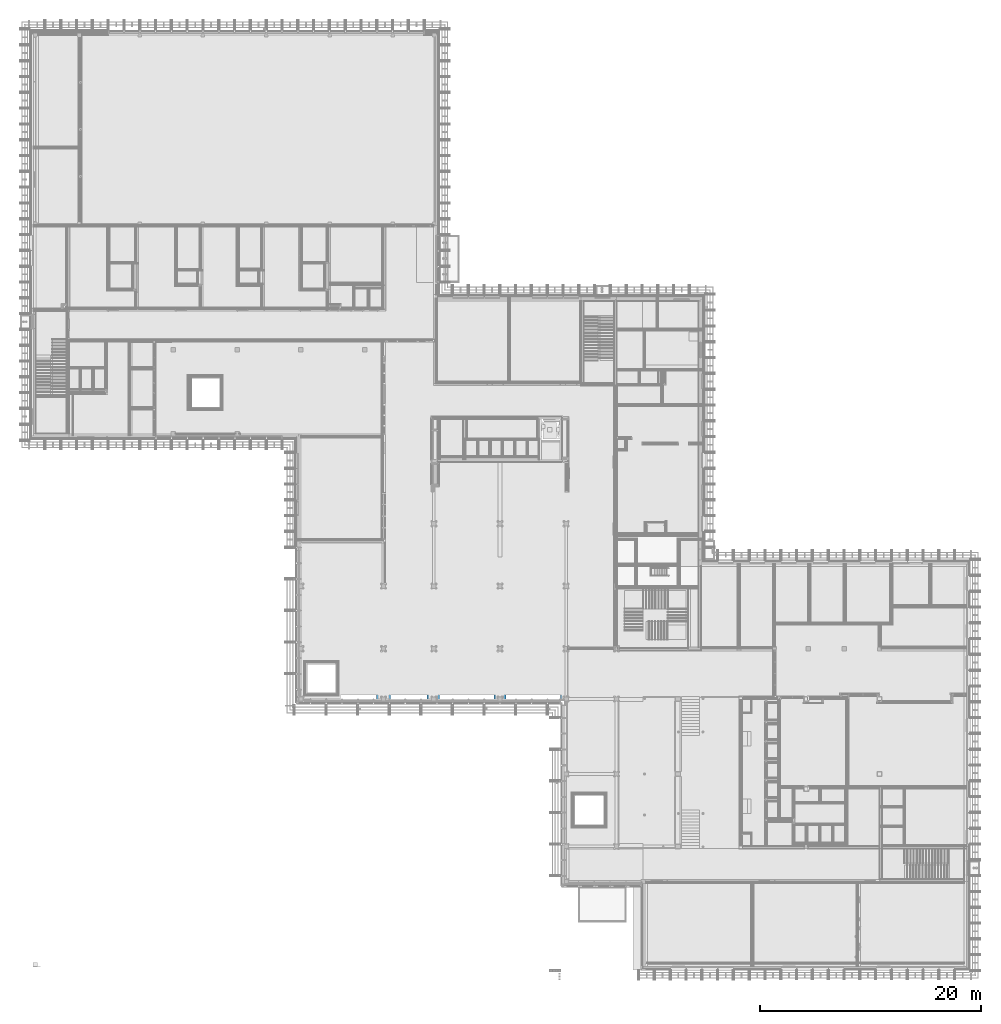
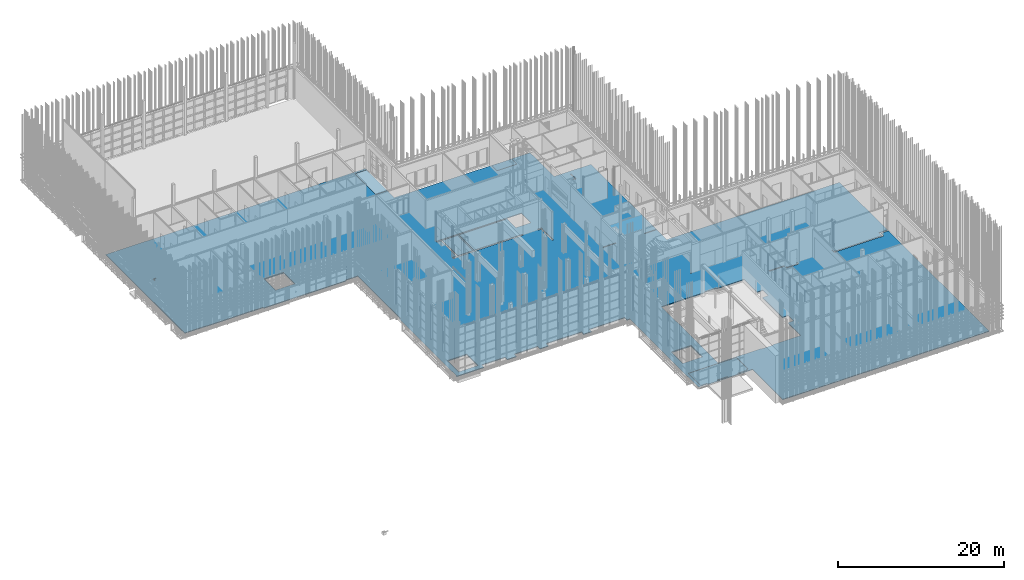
# One storey, part 163 of 260: 1 building element part, 1 element without a shape of its own.
"""IFC2X3 building model written with IfcOpenShell, lengths in millimetres."""

from ifc_helpers import new_model, entity, si_unit, converted_unit, derived_unit, money_unit, direction, frame, origin_with_axes, place, context, subcontext, project, spatial, faceted_brep, material, type_object, element, aggregate, save


model = new_model("IFC2X3")

# Units and contexts
model_context = context("Model", 3, precision=0.01, world=origin_with_axes(), true_north=direction((0.0, 1.0)))
body_context = subcontext(model_context, "Body", "Model", "MODEL_VIEW")
ifc_project = project(units=[si_unit("LENGTHUNIT", "METRE", prefix="MILLI"), si_unit("AREAUNIT", "SQUARE_METRE"), si_unit("VOLUMEUNIT", "CUBIC_METRE"), converted_unit("PLANEANGLEUNIT", "DEGREE", entity("IfcPlaneAngleMeasure", 0.0174532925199), si_unit("PLANEANGLEUNIT", "RADIAN"), dimensions=[0, 0, 0, 0, 0, 0, 0]), money_unit("EUR"), converted_unit("TIMEUNIT", "Year", entity("IfcTimeMeasure", 31556926.0), si_unit("TIMEUNIT", "SECOND"), dimensions=[0, 0, 1, 0, 0, 0, 0]), si_unit("MASSUNIT", "GRAM", prefix="KILO"), si_unit("THERMODYNAMICTEMPERATUREUNIT", "DEGREE_CELSIUS"), si_unit("LUMINOUSINTENSITYUNIT", "LUMEN"), si_unit("ENERGYUNIT", "JOULE", prefix="MEGA"), derived_unit("THERMALCONDUCTANCEUNIT", [(si_unit("POWERUNIT", "WATT"), 1), (si_unit("LENGTHUNIT", "METRE"), -1), (si_unit("THERMODYNAMICTEMPERATUREUNIT", "KELVIN"), -1)]), derived_unit("SPECIFICHEATCAPACITYUNIT", [(si_unit("ENERGYUNIT", "JOULE"), 1), (si_unit("MASSUNIT", "GRAM", prefix="KILO"), -1), (si_unit("THERMODYNAMICTEMPERATUREUNIT", "KELVIN"), -1)]), derived_unit("MASSDENSITYUNIT", [(si_unit("MASSUNIT", "GRAM", prefix="KILO"), 1), (si_unit("VOLUMEUNIT", "CUBIC_METRE"), -1)])], contexts=[model_context])

# Site, building, storey
site_placement = place(None, origin_with_axes())
site = spatial("IfcSite", under=ifc_project, at=site_placement, Name="Kolde pst 67a", CompositionType="ELEMENT")
building_placement = place(site_placement, origin_with_axes())
building = spatial("IfcBuilding", under=site, at=building_placement, Name="Riigigümnaasium", CompositionType="ELEMENT")
storey_placement = place(building_placement, origin_with_axes())
storey = spatial("IfcBuildingStorey", under=building, at=storey_placement, Name="1. korrus", CompositionType="ELEMENT", Elevation=0.0)

# Slab, building element part
slab_type = type_object("IfcSlabType", Name="PP-RBM-10/1_EPS 200 500", PredefinedType="NOTDEFINED")
slab_placement = place(storey_placement, frame((266.322784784, 67249.9971514, 0.0), z_axis=(0.0, 0.0, 1.0), x_axis=(1.0, 0.0, 0.0)))
slab = element("IfcSlab", 1, at=slab_placement, inside=storey, type_object=slab_type, Name="Põrand pinnasel", PredefinedType="NOTDEFINED")
ifc_material = material(Name="_PEALEVALUKIHT - raudbetoonplaat vastavalt EK osale, vajadusel põrandküte")
building_element_part_placement = place(slab_placement, origin_with_axes())
building_element_part = element("IfcBuildingElementPart", 2, at=building_element_part_placement, material=ifc_material, Name="_PEALEVALUKIHT - raudbetoonplaat vastavalt EK osale, vajadusel põrandküte", context=body_context, shape_type="Brep", body=[
    faceted_brep([(16624.9441607, -16615.0095232, -60.0), (16624.9441607, -14015.0095232, -60.0), (16624.9441607, -14015.0095232, -100.0), (16624.9441607, -16615.0095232, -100.0), (13938.6777342, -16675.0095232, -60.0), (16658.6777342, -16675.0095232, -60.0), (16658.6777342, -13955.0095232, -60.0), (13938.6777342, -13955.0095232, -60.0), (14024.9441607, -14015.0095232, -60.0), (14024.9441607, -16615.0095232, -60.0), (14024.9441607, -14015.0095232, -100.0), (23973.6799494, -42999.980095, -100.0), (23973.6799494, -29299.5005252, -100.0), (23999.9463759, -29299.500562, -100.0), (23999.9463759, -19050.0166275, -100.0), (22288.5650026, -19050.0163206, -100.0), (22288.5650026, -19210.0163206, -100.0), (10868.5385943, -19210.0163206, -100.0), (10868.5385943, -19050.0164764, -100.0), (2999.88406448, -19050.0165838, -100.0), (2999.88406628, -19009.9992035, -100.0), (0.0, -19010.7371507, -100.0), (0.0, 0.0, -100.0), (36039.9429015, 0.0, -100.0), (36039.9416319, -6809.99696703, -100.0), (35973.6764556, -6809.99696703, -100.0), (35973.6764556, -7009.99696703, -100.0), (54850.6592908, -7009.99696703, -100.0), (54850.6592908, -7059.99696513, -100.0), (54876.9257173, -7059.99696513, -100.0), (54876.9257173, -12779.9970931, -100.0), (59999.9377357, -12779.9970931, -100.0), (59999.9377357, -28530.0163166, -100.0), (58263.6260919, -28530.0163175, -100.0), (58263.6260919, -28630.0163175, -100.0), (59999.9377357, -28630.0163187, -100.0), (59999.9377357, -31009.9974516, -100.0), (83973.6765431, -31009.9974516, -100.0), (83973.6765431, -42534.9971792, -100.0), (82763.6792783, -42534.9971792, -100.0), (82763.6792783, -42564.9971792, -100.0), (82768.6792783, -42564.9971792, -100.0), (82768.6792783, -42579.9971792, -100.0), (82783.6792783, -42579.9971792, -100.0), (82783.6792783, -42594.9971792, -100.0), (82808.6792783, -42594.9971792, -100.0), (82808.6792783, -42694.9971792, -100.0), (82808.6792783, -43249.8990371, -100.0), (76313.6792783, -43249.8990371, -100.0), (76313.6792783, -43204.8990393, -100.0), (76113.6792783, -43204.8990393, -100.0), (76113.6792783, -42809.9971787, -100.0), (76268.6798861, -42809.9971787, -100.0), (76268.6798861, -42594.9971792, -100.0), (76278.6798861, -42594.9971792, -100.0), (76278.6798861, -42579.9971792, -100.0), (76293.6798861, -42579.9971792, -100.0), (76293.6798861, -42564.9971792, -100.0), (76313.6798861, -42564.9971792, -100.0), (76313.6798861, -42534.9971792, -100.0), (72749.2149042, -42534.9971792, -100.0), (72749.2148941, -42554.9971792, -100.0), (72749.2147712, -42799.9969998, -100.0), (72909.2147712, -42799.9970801, -100.0), (72909.2148239, -42694.9971792, -100.0), (73493.6767943, -42694.9971792, -100.0), (73493.6767453, -43009.9970854, -100.0), (73513.6767453, -43009.9970885, -100.0), (73513.6767905, -42754.9971792, -100.0), (76113.6798861, -42754.9971792, -100.0), (76113.6792783, -42809.9971787, -100.0), (76093.6792783, -42809.9971787, -100.0), (76093.6792783, -43384.8990371, -100.0), (76093.6792783, -43404.8990371, -100.0), (82943.6792783, -43404.8990371, -100.0), (82963.6792783, -43404.8990371, -100.0), (82963.6792783, -42754.9971792, -100.0), (83973.6765431, -42754.9971792, -100.0), (83973.6765431, -67009.9971514, -100.0), (55329.9241436, -67009.9971514, -100.0), (55329.9251795, -59729.9852703, -100.0), (49105.2284207, -59729.9962674, -100.0), (49105.2303604, -59560.0076119, -100.0), (47983.4761046, -59559.9948118, -100.0), (47983.6626713, -43209.9991185, -100.0), (47799.9291214, -43209.9971514, -100.0), (47436.9477703, -43209.9971514, -100.0), (47436.9477703, -42649.7267552, -100.0), (42530.9379731, -42649.7267552, -100.0), (42530.9379731, -43209.9971514, -100.0), (41436.9477703, -43209.9971514, -100.0), (41436.9477703, -42649.7267552, -100.0), (36532.9379731, -42649.7267552, -100.0), (36532.9379731, -43209.7267557, -100.0), (35366.9477703, -43209.7267557, -100.0), (35366.9477703, -42649.7267552, -100.0), (32102.9415226, -42649.7267552, -100.0), (32102.9415226, -43209.7267557, -100.0), (30816.9513198, -43209.7267557, -100.0), (30816.9513198, -42649.7267552, -100.0), (27557.7759921, -42649.7267552, -100.0), (27557.7759921, -43209.7267572, -100.0), (23799.9457899, -43209.7267572, -100.0), (23799.9460972, -42999.9781126, -100.0), (67384.5647071, -42834.9971787, -100.0), (67384.5647071, -42934.9971787, -100.0), (69483.6765035, -42934.9971787, -100.0), (69483.6765035, -42834.9971787, -100.0), (71093.6765035, -43389.8971581, -100.0), (71193.6765035, -43389.8971581, -100.0), (71193.6765035, -43014.7452063, -100.0), (71093.6765035, -43014.7452063, -100.0), (71093.6765035, -43289.8971581, -100.0), (69608.6765035, -43289.8971581, -100.0), (69608.6765035, -43209.9971787, -100.0), (69508.6765035, -43209.9971787, -100.0), (69508.6765035, -43289.8971581, -100.0), (69508.6765035, -43389.8971581, -100.0), (56563.6713262, -14533.7381503, -100.0), (56841.1713262, -14533.7381503, -100.0), (56941.1713262, -14533.7381503, -100.0), (56941.1713262, -13331.4970931, -100.0), (56841.1713262, -13331.4970931, -100.0), (56841.1713262, -14433.7381503, -100.0), (56563.6713262, -14433.7381503, -100.0), (52563.6713374, -28536.1294346, -100.0), (52563.6713374, -28636.1294346, -100.0), (54397.3960326, -28636.1294337, -100.0), (54397.3960326, -28536.1294355, -100.0), (58908.7339847, -38629.9974954, -100.0), (59013.7339847, -38629.9974954, -100.0), (59013.7339847, -38555.9974954, -100.0), (58908.7339847, -38555.9974954, -100.0), (52466.6713373, -33099.9971785, -100.0), (52466.6713373, -33019.9971785, -100.0), (52446.6713373, -33019.9971785, -100.0), (52446.6713373, -33099.9971785, -100.0), (52343.6713358, -33099.9971785, -100.0), (52343.6713358, -32599.9971785, -100.0), (52323.6713358, -32599.9971785, -100.0), (52323.6713358, -33119.9971785, -100.0), (52343.6713358, -33119.9971785, -100.0), (52466.6713373, -33119.9971785, -100.0), (47634.9291054, -19779.9971915, -100.0), (47634.9291054, -17479.9971915, -100.0), (45534.9291024, -17479.9971915, -100.0), (45534.9291024, -19779.9971915, -100.0), (47958.6626813, -24264.9971915, -100.0), (48158.6626813, -24264.9971915, -100.0), (48158.6626813, -21594.9971915, -100.0), (47958.6626813, -21594.9971915, -100.0), (48173.6626813, -21579.9971911, -100.0), (48173.6626813, -21379.997192, -100.0), (47608.6626759, -21379.9971915, -100.0), (47608.6626759, -21579.9971915, -100.0), (51374.9334552, -54375.0161939, -100.0), (51374.9334552, -51775.0161939, -100.0), (48774.9334552, -51775.0161939, -100.0), (48774.9334552, -54375.0161939, -100.0), (2773.71489861, -7389.99920353, -100.0), (2773.71489861, -7289.99920353, -100.0), (2433.61489861, -7289.99920353, -100.0), (2333.61489861, -7289.99920353, -100.0), (2333.61489861, -7689.99920353, -100.0), (2433.61489861, -7689.99920353, -100.0), (2433.61489861, -7389.99920353, -100.0), (14024.9441607, -16615.0095232, -100.0), (35773.6764452, -21579.9971911, -100.0), (36338.6764452, -21579.9971915, -100.0), (45508.6626759, -21579.9971915, -100.0), (45508.6626759, -21379.9971915, -100.0), (36538.6764452, -21379.9971915, -100.0), (36538.6764452, -18569.9968148, -100.0), (36538.6764448, -17479.9971915, -100.0), (36338.6764457, -17479.9971915, -100.0), (36338.6764452, -18569.9968148, -100.0), (36338.6764452, -21379.9971915, -100.0), (35773.6764452, -21379.997192, -100.0), (27150.0004112, -39859.9971514, -100.0), (24550.0004112, -39859.9971514, -100.0), (24550.0004112, -42459.9971514, -100.0), (27150.0004112, -42459.9971514, -100.0), (58403.6261108, -56470.0352098, -100.0), (58403.6261108, -56560.0372612, -100.0), (60043.6261108, -56560.0372612, -100.0), (60043.6261108, -56470.0352098, -100.0), (63889.4805108, -56470.0352098, -100.0), (63889.4805108, -53380.0354382, -100.0), (64699.9316408, -53380.0110601, -100.0), (64699.8925374, -52080.0108444, -100.0), (63889.4805108, -52080.0352212, -100.0), (63889.4796994, -47279.9474523, -100.0), (64699.838281, -47279.923078, -100.0), (64699.7991789, -45979.9659208, -100.0), (63889.4795044, -45979.9902948, -100.0), (63889.4805108, -42900.0006175, -100.0), (60043.6261108, -42900.0006175, -100.0), (60043.6261108, -42799.727851, -100.0), (58403.6261108, -42799.727851, -100.0), (58403.6261108, -42900.0006175, -100.0), (52419.9377639, -42900.0006175, -100.0), (52419.9377639, -56470.0352098, -100.0), (13938.6777342, -16675.0095232, 0.0), (16658.6777342, -16675.0095232, 0.0), (16658.6777342, -13955.0095232, 0.0), (13938.6777342, -13955.0095232, 0.0), (23973.6799494, -29299.5005252, -0.100008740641), (23973.6799494, -42999.980095, -0.0999999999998), (23799.9661664, -29299.5002691, 0.0), (23999.9463759, -29299.500562, 0.0), (23799.9661664, -29299.5005252, -0.100008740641), (23999.9463759, -19050.0166275, 0.0), (22288.5650026, -19050.0163206, 0.0), (22288.5650026, -19210.0163206, 0.0), (10868.5385943, -19210.0163206, 0.0), (10868.5385943, -19050.0164764, 0.0), (2999.88406448, -19050.0165838, 0.0), (2999.88406628, -19009.9992035, 0.0), (0.0, -19010.7371507, 0.0), (0.0, 0.0, 0.0), (36039.9429015, 0.0, 0.0), (36039.9429015, -325.005422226, -22.0), (36039.9429015, -5332.11390243, -22.0), (36039.9419075, -5332.11390243, 0.0), (36039.9415946, -7009.99979261, 0.0), (36039.9415946, -7009.99696703, -20.0000021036), (36039.9415169, -6809.99696703, -20.0000021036), (36039.942841, -325.005422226, 0.0), (35973.6764556, -6809.99696703, -20.0000021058), (35973.6764556, -7009.99696703, -20.0000021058), (50576.143585, -7009.99696703, -20.0000016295), (50576.143585, -7009.99696703, -22.0), (51966.5117299, -7009.99696703, -22.0), (51966.5117299, -7009.99696703, -20.0000015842), (54850.6592908, -7009.99696703, -20.0000014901), (54850.6592908, -7059.99696513, -20.0000023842), (54876.9257173, -7059.99696513, -20.000002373), (54876.9257173, -7009.51065423, 0.0), (54876.9257173, -12779.9970931, 0.0), (54876.9257173, -7009.51065423, -20.000000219), (59999.9377357, -12779.9970931, 0.0), (59999.9377357, -28530.0163166, 0.0), (58263.6260919, -28530.0163175, 0.0), (58263.6260919, -28630.0163175, 0.0), (59999.9377357, -28630.0163187, 0.0), (59999.9377357, -31009.9974516, 0.0), (83999.9167207, -31009.9974516, 0.0), (83999.9167207, -31009.9974516, -20.0000011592), (83973.6765431, -31009.9974516, -20.0000011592), (83973.6765431, -42534.9971792, -20.0000012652), (83999.9167207, -42534.9971792, 0.0), (82763.6792783, -42534.9971792, 0.0), (83999.9167207, -42534.9971792, -20.0000012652), (82763.6792783, -42564.9971792, 0.0), (82768.6792783, -42564.9971792, 0.0), (82768.6792783, -42579.9971792, 0.0), (82783.6792783, -42579.9971792, 0.0), (82783.6792783, -42594.9971792, 0.0), (82808.6792783, -42594.9971792, 0.0), (82808.6792783, -42694.9971792, 0.0), (82808.6792783, -43249.8990371, 0.0), (76313.6792783, -43249.8990371, 0.0), (76313.6792783, -43204.8990393, 0.0), (76113.6792783, -43204.8990393, 0.0), (76113.6792783, -42809.9971787, 0.0), (76268.6798861, -42809.9971787, 0.0), (76268.6798861, -42594.9971792, 0.0), (76278.6798861, -42594.9971792, 0.0), (76278.6798861, -42579.9971792, 0.0), (76293.6798861, -42579.9971792, 0.0), (76293.6798861, -42564.9971792, 0.0), (76313.6798861, -42564.9971792, 0.0), (76313.6798861, -42534.9971792, 0.0), (72749.2149042, -42534.9971792, 0.0), (72749.2148941, -42554.9971792, 0.0), (72749.2147712, -42799.9969998, 0.0), (72909.2147712, -42799.9970801, 0.0), (72909.2148239, -42694.9971792, 0.0), (73493.6767943, -42694.9971792, 0.0), (73493.6767453, -43009.9970854, 0.0), (73513.6767453, -43009.9970885, 0.0), (73513.6767905, -42754.9971792, 0.0), (76113.6798861, -42754.9971792, 0.0), (76113.6792783, -42809.9971787, 0.0), (76093.6792783, -42809.9971787, 0.0), (76093.6792783, -43384.8990371, 0.0), (76093.6792783, -43404.8990371, 0.0), (82943.6792783, -43404.8990371, 0.0), (82963.6792783, -43404.8990371, 0.0), (82963.6792783, -42754.9971792, 0.0), (83999.9167207, -42754.9971792, 0.0), (83999.9167207, -42754.9971792, -20.0000012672), (83973.6765431, -42754.9971792, -20.0000012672), (83973.6765431, -67009.9971514, -20.0000014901), (83999.9167207, -67009.9971514, 0.0), (55329.9241436, -67009.9971514, 0.0), (83999.9167207, -67009.9971514, -20.0000014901), (55329.9251795, -59729.9852703, 0.0), (51965.2283205, -59729.9912147, 0.0), (50474.320025, -59729.9938486, 0.0), (50474.320025, -59729.9938486, -22.0), (49105.2284207, -59729.9962674, -22.0), (53335.228342, -59729.9887943, 0.0), (53335.228342, -59729.9887943, -22.0), (51965.2283205, -59729.9912147, -22.0), (49105.2303604, -59560.0076119, -22.0), (47983.4761046, -59559.9948118, -0.0999999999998), (49105.228415, -59560.0076119, -0.0999999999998), (47983.6626713, -43209.9991185, -0.0999999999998), (47799.9291214, -43209.9971514, -0.0999999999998), (47436.9477703, -43209.9971514, 0.0), (47799.9291214, -43209.9971514, 0.0), (47436.9477703, -42649.7267552, 0.0), (42530.9379731, -42649.7267552, 0.0), (42530.9379731, -43209.9971514, 0.0), (41436.9477703, -43209.9971514, 0.0), (41436.9477703, -42649.7267552, 0.0), (36532.9379731, -42649.7267552, 0.0), (36532.9379731, -43209.7267557, 0.0), (35366.9477703, -43209.7267557, 0.0), (35366.9477703, -42649.7267552, 0.0), (32102.9415226, -42649.7267552, 0.0), (32102.9415226, -43209.7267557, 0.0), (30816.9513198, -43209.7267557, 0.0), (30816.9513198, -42649.7267552, 0.0), (27557.7759921, -42649.7267552, 0.0), (27557.7759921, -43209.7267572, 0.0), (23799.9457899, -43209.7267572, 0.0), (23799.9460972, -42999.9781126, -0.0999999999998), (67384.5647071, -42834.9971787, 0.0), (67384.5647071, -42934.9971787, 0.0), (69483.6765035, -42934.9971787, 0.0), (69483.6765035, -42834.9971787, 0.0), (71093.6765035, -43389.8971581, 0.0), (71193.6765035, -43389.8971581, 0.0), (71193.6765035, -43014.7452063, 0.0), (71093.6765035, -43014.7452063, 0.0), (71093.6765035, -43289.8971581, 0.0), (69608.6765035, -43289.8971581, 0.0), (69608.6765035, -43209.9971787, 0.0), (69508.6765035, -43209.9971787, 0.0), (69508.6765035, -43289.8971581, 0.0), (69508.6765035, -43389.8971581, 0.0), (56563.6713262, -14533.7381503, 0.0), (56841.1713262, -14533.7381503, 0.0), (56941.1713262, -14533.7381503, 0.0), (56941.1713262, -13331.4970931, 0.0), (56841.1713262, -13331.4970931, 0.0), (56841.1713262, -14433.7381503, 0.0), (56563.6713262, -14433.7381503, 0.0), (52563.6713374, -28536.1294346, 0.0), (52563.6713374, -28636.1294346, 0.0), (54397.3960326, -28636.1294337, 0.0), (54397.3960326, -28536.1294354, 0.0), (58908.7339847, -38629.9974954, 0.0), (59013.7339847, -38629.9974954, 0.0), (59013.7339847, -38555.9974954, 0.0), (58908.7339847, -38555.9974954, 0.0), (52466.6713373, -33099.9971785, 0.0), (52466.6713373, -33019.9971785, 0.0), (52446.6713373, -33019.9971785, 0.0), (52446.6713373, -33099.9971785, 0.0), (52343.6713358, -33099.9971785, 0.0), (52343.6713358, -32599.9971785, 0.0), (52323.6713358, -32599.9971785, 0.0), (52323.6713358, -33119.9971785, 0.0), (52343.6713358, -33119.9971785, 0.0), (52466.6713373, -33119.9971785, 0.0), (47634.9291054, -19779.9971915, 0.0), (47634.9291054, -17479.9971915, 0.0), (45534.9291024, -17479.9971915, 0.0), (45534.9291024, -19779.9971915, 0.0), (47958.6626813, -24264.9971915, 0.0), (48158.6626813, -24264.9971915, 0.0), (48158.6626813, -21594.9971915, 0.0), (47958.6626813, -21594.9971915, 0.0), (48173.6626813, -21579.9971911, 0.0), (48173.6626813, -21379.997192, 0.0), (47608.6626759, -21379.9971915, 0.0), (47608.6626759, -21579.9971915, 0.0), (51374.9334552, -54375.0161939, -60.0), (51374.9334552, -51775.0161939, -60.0), (48774.9334552, -51775.0161939, -60.0), (48774.9334552, -54375.0161939, -60.0), (2773.71489861, -7389.99920353, 0.0), (2773.71489861, -7289.99920353, 0.0), (2433.61489861, -7289.99920353, 0.0), (2333.61489861, -7289.99920353, 0.0), (2333.61489861, -7689.99920353, 0.0), (2433.61489861, -7689.99920353, 0.0), (2433.61489861, -7389.99920353, 0.0), (35773.6764452, -21579.9971911, 0.0), (45508.6626759, -21579.9971915, 0.0), (45508.6626759, -21379.9971915, 0.0), (38643.5077265, -21379.9971915, -80.0), (38643.5077265, -21379.9971915, 0.0), (36538.6764452, -21379.9971915, 0.0), (38843.5077265, -21379.9971915, 0.0), (38843.5077265, -21379.9971915, -80.0), (36538.6764448, -17679.9971915, 0.0), (36538.6764448, -17679.9971915, -80.0), (36538.6764448, -17479.9971915, -80.0), (35773.6764452, -17479.9971915, 0.0), (35773.6764452, -17479.9971915, -80.0), (36338.6764457, -17479.9971915, -80.0), (45363.6626759, -17479.9971915, -80.0), (45363.6626759, -17479.9971915, 0.0), (36338.6764457, -17679.9971915, -80.0), (36338.6764457, -17679.9971915, 0.0), (36338.6764452, -21379.9971915, 0.0), (35773.6764452, -21379.997192, 0.0), (27150.0004112, -39859.9971514, -60.0), (24550.0004112, -39859.9971514, -60.0), (24550.0004112, -42459.9971514, -60.0), (27150.0004112, -42459.9971514, -60.0), (58403.6261108, -56470.0352098, 0.0), (58403.6261108, -56560.0372612, 0.0), (60043.6261108, -56560.0372612, 0.0), (60043.6261108, -56470.0352098, 0.0), (63889.4805108, -56470.0352098, 0.0), (63889.4805108, -53380.0354382, 0.0), (64699.9316408, -53380.0110601, 0.0), (64699.8925374, -52080.0108444, 0.0), (63889.4805108, -52080.0352212, 0.0), (63889.4796994, -47279.9474523, 0.0), (64699.838281, -47279.923078, 0.0), (64699.7991789, -45979.9659208, 0.0), (63889.4795044, -45979.9902948, 0.0), (63889.4805108, -42900.0006175, 0.0), (60043.6261108, -42900.0006175, 0.0), (60043.6261108, -42799.727851, 0.0), (58403.6261108, -42799.727851, 0.0), (58403.6261108, -42900.0006175, 0.0), (52419.9377639, -42900.0006175, 0.0), (52419.9377639, -56470.0352098, 0.0), (51966.5117299, -7009.58622871, 0.0), (51966.5117299, -7019.99852941, 0.0), (52313.6713374, -7019.99852941, 0.0), (52313.6713374, -8319.99696464, 0.0), (49543.6872707, -8319.99696464, 0.0), (49543.6872707, -7020.00174649, 0.0), (50576.143585, -7020.00174649, 0.0), (50576.143585, -7009.62233228, 0.0), (34402.7365633, -5332.11390243, 0.0), (34402.7365633, -325.005422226, 0.0), (47799.9291214, -59729.9985735, 0.0), (49105.228368, -59729.9962674, 0.0), (49105.228415, -59559.9974476, 0.0), (48213.6627177, -59559.9893729, 0.0), (48213.6627177, -56600.0351366, 0.0), (54903.6592908, -56600.0351366, 0.0), (54903.6592908, -59349.9970827, 0.0), (54723.6574826, -59349.9970827, 0.0), (54723.6574826, -59559.9893729, 0.0), (53335.2283891, -59559.9893729, 0.0), (35773.6764452, -17679.9971915, 0.0), (45363.6626759, -17679.9971915, 0.0), (38843.5077265, -17679.9971915, 0.0), (51428.6670287, -51695.0161939, 0.0), (51428.6670287, -54455.0161939, 0.0), (48668.6670287, -54455.0161939, 0.0), (48668.6670287, -51695.0161939, 0.0), (27183.7339847, -42519.9971514, 0.0), (24463.7339847, -42519.9971514, 0.0), (24463.7339847, -39799.9971514, 0.0), (27183.7339847, -39799.9971514, 0.0), (34402.7365633, -325.005422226, -22.0), (34402.7365633, -5332.11390243, -22.0), (50576.143585, -7009.6216902, -20.0000016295), (50576.143585, -7020.00174649, -22.0), (49543.6872707, -7020.00174649, -22.0), (49543.6872707, -8319.99696464, -22.0), (52313.6713374, -8319.99696464, -22.0), (52313.6713374, -7019.99852941, -22.0), (51966.5117299, -7019.99852941, -22.0), (51966.5117299, -7009.58579547, -20.0000015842), (54850.6592908, -7009.51133629, -20.0000014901), (51965.2283676, -59559.9982452, 0.0), (50474.3200721, -59559.9893729, 0.0), (50474.3200721, -59559.9893729, -22.0), (54723.6574826, -59559.9893729, -22.0), (54723.6574826, -59349.9970827, -22.0), (54903.6592908, -59349.9970827, -22.0), (54903.6592908, -56600.0351366, -22.0), (48213.6627177, -56600.0351366, -22.0), (48213.6627177, -59559.9893729, -22.0), (49105.228415, -59559.9974476, -22.0), (51965.2283676, -59559.9982452, -22.0), (53335.2283891, -59559.9893729, -22.0), (49105.2284207, -59729.9962674, -0.0999999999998), (47799.9291214, -59729.9985735, -0.0999999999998), (51428.6670287, -51695.0161939, -60.0), (48668.6670287, -51695.0161939, -60.0), (48668.6670287, -54455.0161939, -60.0), (51428.6670287, -54455.0161939, -60.0), (38643.5077265, -17679.9971915, 0.0), (38643.5077265, -17679.9971915, -80.0), (38843.5077265, -17679.9971915, -80.0), (45363.6626759, -17679.9971915, -80.0), (35773.6764452, -17679.9971915, -80.0), (24463.7339847, -39799.9971514, -60.0), (24463.7339847, -42519.9971514, -60.0), (27183.7339847, -42519.9971514, -60.0), (27183.7339847, -39799.9971514, -60.0)], [[[0, 1, 2, 3]], [[4, 5, 6, 7], [8, 1, 0, 9]], [[1, 8, 10, 2]], [[11, 12, 13, 14, 15, 16, 17, 18, 19, 20, 21, 22, 23, 24, 25, 26, 27, 28, 29, 30, 31, 32, 33, 34, 35, 36, 37, 38, 39, 40, 41, 42, 43, 44, 45, 46, 47, 48, 49, 50, 51, 52, 53, 54, 55, 56, 57, 58, 59, 60, 61, 62, 63, 64, 65, 66, 67, 68, 69, 70, 71, 72, 73, 74, 75, 76, 77, 78, 79, 80, 81, 82, 83, 84, 85, 86, 87, 88, 89, 90, 91, 92, 93, 94, 95, 96, 97, 98, 99, 100, 101, 102, 103], [104, 105, 106, 107], [108, 109, 110, 111, 112, 113, 114, 115, 116, 117], [118, 119, 120, 121, 122, 123, 124], [125, 126, 127, 128], [129, 130, 131, 132], [133, 134, 135, 136, 137, 138, 139, 140, 141, 142], [143, 144, 145, 146], [147, 148, 149, 150], [151, 152, 153, 154], [155, 156, 157, 158], [159, 160, 161, 162, 163, 164, 165], [3, 2, 10, 166], [167, 168, 169, 170, 171, 172, 173, 174, 175, 176, 177], [178, 179, 180, 181], [182, 183, 184, 185, 186, 187, 188, 189, 190, 191, 192, 193, 194, 195, 196, 197, 198, 199, 200, 201]], [[9, 0, 3, 166]], [[202, 203, 5, 4]], [[203, 204, 6, 5]], [[204, 205, 7, 6]], [[205, 202, 4, 7]], [[8, 9, 166, 10]], [[206, 12, 11, 207]], [[208, 209, 13, 12, 206, 210]], [[209, 211, 14, 13]], [[211, 212, 15, 14]], [[212, 213, 16, 15]], [[213, 214, 17, 16]], [[214, 215, 18, 17]], [[215, 216, 19, 18]], [[216, 217, 20, 19]], [[217, 218, 21, 20]], [[219, 22, 21, 218]], [[219, 220, 23, 22]], [[221, 222, 223, 224, 225, 226, 24, 23, 220, 227]], [[226, 228, 25, 24]], [[25, 228, 229, 26]], [[26, 229, 225, 230, 231, 232, 233, 234, 27]], [[234, 235, 28, 27]], [[235, 236, 29, 28]], [[237, 238, 30, 29, 236, 239]], [[238, 240, 31, 30]], [[240, 241, 32, 31]], [[241, 242, 33, 32]], [[33, 242, 243, 34]], [[243, 244, 35, 34]], [[244, 245, 36, 35]], [[36, 245, 246, 247, 248, 37]], [[249, 38, 37, 248]], [[250, 251, 39, 38, 249, 252]], [[251, 253, 40, 39]], [[253, 254, 41, 40]], [[254, 255, 42, 41]], [[255, 256, 43, 42]], [[43, 256, 257, 44]], [[257, 258, 45, 44]], [[258, 259, 46, 45]], [[46, 259, 260, 47]], [[260, 261, 48, 47]], [[262, 49, 48, 261]], [[262, 263, 50, 49]], [[263, 264, 51, 50]], [[264, 265, 52, 51]], [[265, 266, 53, 52]], [[266, 267, 54, 53]], [[55, 54, 267, 268]], [[56, 55, 268, 269]], [[269, 270, 57, 56]], [[270, 271, 58, 57]], [[272, 59, 58, 271]], [[59, 272, 273, 60]], [[60, 273, 274, 61]], [[61, 274, 275, 62]], [[275, 276, 63, 62]], [[276, 277, 64, 63]], [[277, 278, 65, 64]], [[278, 279, 66, 65]], [[279, 280, 67, 66]], [[280, 281, 68, 67]], [[281, 282, 69, 68]], [[282, 283, 70, 69]], [[283, 284, 71, 70]], [[71, 284, 285, 72]], [[285, 286, 73, 72]], [[286, 287, 74, 73]], [[287, 288, 75, 74]], [[289, 76, 75, 288]], [[76, 289, 290, 291, 292, 77]], [[293, 78, 77, 292]], [[294, 295, 79, 78, 293, 296]], [[295, 297, 80, 79]], [[298, 299, 300, 301, 81, 80, 297, 302, 303, 304]], [[305, 82, 81, 301]], [[306, 83, 82, 305, 307]], [[306, 308, 84, 83]], [[308, 309, 85, 84]], [[310, 86, 85, 309, 311]], [[312, 87, 86, 310]], [[312, 313, 88, 87]], [[88, 313, 314, 89]], [[314, 315, 90, 89]], [[316, 91, 90, 315]], [[91, 316, 317, 92]], [[317, 318, 93, 92]], [[318, 319, 94, 93]], [[319, 320, 95, 94]], [[320, 321, 96, 95]], [[321, 322, 97, 96]], [[322, 323, 98, 97]], [[323, 324, 99, 98]], [[324, 325, 100, 99]], [[325, 326, 101, 100]], [[101, 326, 327, 102]], [[210, 328, 103, 102, 327, 208]], [[328, 207, 11, 103]], [[329, 330, 105, 104]], [[330, 331, 106, 105]], [[331, 332, 107, 106]], [[332, 329, 104, 107]], [[333, 334, 109, 108]], [[335, 110, 109, 334]], [[335, 336, 111, 110]], [[111, 336, 337, 112]], [[337, 338, 113, 112]], [[338, 339, 114, 113]], [[339, 340, 115, 114]], [[340, 341, 116, 115]], [[341, 342, 117, 116]], [[342, 333, 108, 117]], [[343, 344, 119, 118]], [[344, 345, 120, 119]], [[345, 346, 121, 120]], [[346, 347, 122, 121]], [[347, 348, 123, 122]], [[348, 349, 124, 123]], [[349, 343, 118, 124]], [[350, 351, 126, 125]], [[351, 352, 127, 126]], [[352, 353, 128, 127]], [[353, 350, 125, 128]], [[354, 355, 130, 129]], [[355, 356, 131, 130]], [[356, 357, 132, 131]], [[357, 354, 129, 132]], [[358, 359, 134, 133]], [[359, 360, 135, 134]], [[360, 361, 136, 135]], [[361, 362, 137, 136]], [[362, 363, 138, 137]], [[363, 364, 139, 138]], [[364, 365, 140, 139]], [[141, 140, 365, 366]], [[142, 141, 366, 367]], [[367, 358, 133, 142]], [[368, 369, 144, 143]], [[369, 370, 145, 144]], [[370, 371, 146, 145]], [[371, 368, 143, 146]], [[372, 373, 148, 147]], [[373, 374, 149, 148]], [[374, 375, 150, 149]], [[375, 372, 147, 150]], [[376, 377, 152, 151]], [[377, 378, 153, 152]], [[378, 379, 154, 153]], [[379, 376, 151, 154]], [[156, 155, 380, 381]], [[157, 156, 381, 382]], [[158, 157, 382, 383]], [[155, 158, 383, 380]], [[384, 385, 160, 159]], [[385, 386, 161, 160]], [[386, 387, 162, 161]], [[387, 388, 163, 162]], [[388, 389, 164, 163]], [[389, 390, 165, 164]], [[390, 384, 159, 165]], [[168, 167, 391, 392, 169]], [[392, 393, 170, 169]], [[394, 395, 396, 171, 170, 393, 397, 398]], [[396, 399, 400, 401, 173, 172, 171]], [[402, 403, 404, 174, 173, 401, 405, 406]], [[174, 404, 407, 408, 409, 176, 175]], [[409, 410, 177, 176]], [[410, 391, 167, 177]], [[178, 411, 412, 179]], [[179, 412, 413, 180]], [[180, 413, 414, 181]], [[181, 414, 411, 178]], [[183, 182, 415, 416]], [[183, 416, 417, 184]], [[184, 417, 418, 185]], [[186, 185, 418, 419]], [[419, 420, 187, 186]], [[421, 188, 187, 420]], [[421, 422, 189, 188]], [[190, 189, 422, 423]], [[423, 424, 191, 190]], [[424, 425, 192, 191]], [[425, 426, 193, 192]], [[426, 427, 194, 193]], [[427, 428, 195, 194]], [[429, 196, 195, 428]], [[429, 430, 197, 196]], [[430, 431, 198, 197]], [[431, 432, 199, 198]], [[199, 432, 433, 200]], [[200, 433, 434, 201]], [[434, 415, 182, 201]], [[255, 254, 253, 251, 250, 246, 245, 244, 243, 242, 241, 240, 238, 237, 435, 436, 437, 438, 439, 440, 441, 442, 224, 223, 443, 444, 227, 220, 219, 218, 217, 216, 215, 214, 213, 212, 211, 209, 208, 327, 326, 325, 324, 323, 322, 321, 320, 319, 318, 317, 316, 315, 314, 313, 312, 310, 311, 445, 446, 447, 448, 449, 450, 451, 452, 453, 454, 302, 297, 295, 294, 290, 289, 288, 287, 286, 285, 284, 283, 282, 281, 280, 279, 278, 277, 276, 275, 274, 273, 272, 271, 270, 269, 268, 267, 266, 265, 264, 263, 262, 261, 260, 259, 258, 257, 256], [331, 330, 329, 332], [340, 339, 338, 337, 336, 335, 334, 333, 342, 341], [344, 343, 349, 348, 347, 346, 345], [352, 351, 350, 353], [357, 356, 355, 354], [363, 362, 361, 360, 359, 358, 367, 366, 365, 364], [369, 368, 371, 370], [373, 372, 375, 374], [378, 377, 376, 379], [386, 385, 384, 390, 389, 388, 387], [393, 392, 391, 410, 409, 408, 455, 402, 406, 456, 457, 397], [428, 427, 426, 425, 424, 423, 422, 421, 420, 419, 418, 417, 416, 415, 434, 433, 432, 431, 430, 429], [458, 459, 460, 461], [462, 463, 464, 465], [202, 205, 204, 203]], [[210, 206, 207, 328]], [[222, 221, 466, 467]], [[222, 467, 443, 223]], [[225, 224, 442, 468]], [[225, 229, 228, 226]], [[466, 221, 227, 444]], [[230, 225, 468]], [[231, 230, 468, 442, 441, 469]], [[469, 470, 471, 472, 473, 474, 232, 231]], [[232, 474, 436, 435, 475, 233]], [[476, 234, 233, 475]], [[234, 476, 239, 236, 235]], [[435, 237, 239, 476, 475]], [[246, 250, 252, 247]], [[252, 249, 248, 247]], [[290, 294, 296, 291]], [[296, 293, 292, 291]], [[298, 477, 478, 299]], [[478, 479, 300, 299]], [[480, 481, 482, 483, 484, 485, 486, 305, 301, 300, 479, 487, 304, 303, 488]], [[454, 488, 303, 302]], [[487, 477, 298, 304]], [[305, 486, 447, 446, 489, 307]], [[307, 489, 490, 309, 308, 306]], [[309, 490, 445, 311]], [[491, 492, 493, 494], [380, 383, 382, 381]], [[495, 395, 394, 496]], [[395, 495, 399, 396]], [[397, 457, 497, 398]], [[496, 394, 398, 497, 498, 405, 401, 400]], [[399, 495, 496, 400]], [[403, 402, 455, 499]], [[407, 404, 403, 499]], [[456, 406, 405, 498]], [[408, 407, 499, 455]], [[500, 501, 502, 503], [413, 412, 411, 414]], [[474, 473, 437, 436]], [[473, 472, 438, 437]], [[472, 471, 439, 438]], [[471, 470, 440, 439]], [[470, 469, 441, 440]], [[467, 466, 444, 443]], [[446, 445, 490, 489]], [[448, 447, 486, 485]], [[449, 448, 485, 484]], [[483, 450, 449, 484]], [[451, 450, 483, 482]], [[452, 451, 482, 481]], [[452, 481, 480, 453]], [[488, 454, 453, 480]], [[456, 498, 497, 457]], [[491, 494, 459, 458]], [[494, 493, 460, 459]], [[493, 492, 461, 460]], [[492, 491, 458, 461]], [[501, 463, 462, 502]], [[500, 464, 463, 501]], [[503, 465, 464, 500]], [[502, 462, 465, 503]], [[478, 477, 487, 479]]]),
])
aggregate(slab, [building_element_part])

save(model, "model.ifc")
